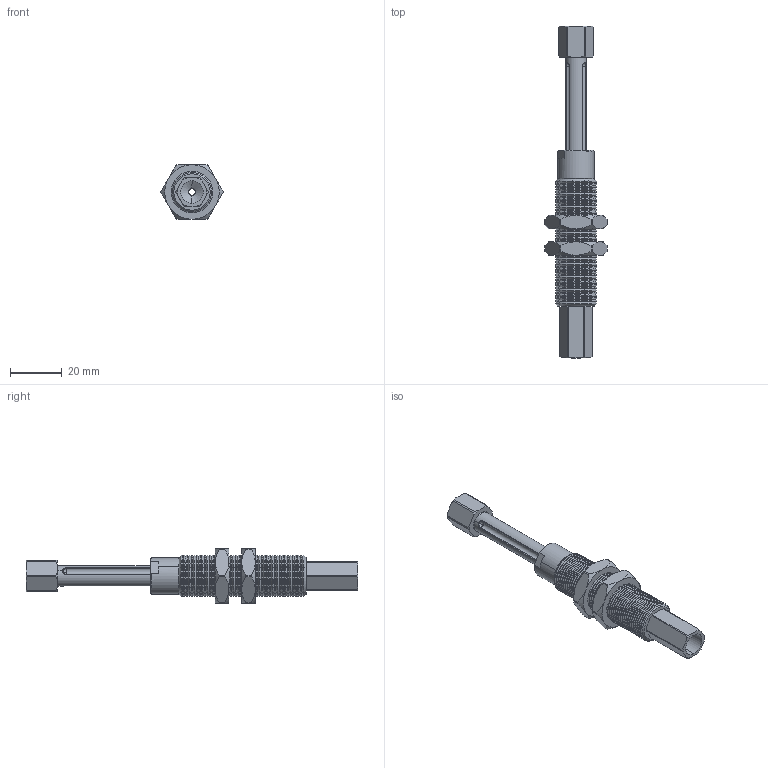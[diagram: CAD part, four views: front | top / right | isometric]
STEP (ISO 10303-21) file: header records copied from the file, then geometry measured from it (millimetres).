
FILE_DESCRIPTION (( 'STEP AP214' ), '1' );
FILE_NAME ('VFNT1636-G18.STEP', '2019-11-18T05:32:16', ( '微软用户' ), ( '微软中国' ), 'SwSTEP 2.0', 'SolidWorks 2016', '' );
FILE_SCHEMA (( 'AUTOMOTIVE_DESIGN' ));
Length unit declared in the file: millimetre
Products named in the file (1): VFNT1636-G18
Bounding box: 24 x 128 x 21 mm (x, y, z)
Volume: 15635 mm3; surface area: 14671.2 mm2
Topology: 6 solids, 6 shells, 628 faces, 1347 edges, 742 vertices
Faces by surface type: cone 344, cylinder 207, plane 57, sphere 12, bspline 6, torus 2
Entity records: 26636 total; most frequent: CARTESIAN_POINT 6028, DIRECTION 3075, ORIENTED_EDGE 2694, EDGE_CURVE 1347, AXIS2_PLACEMENT_3D 1253, VERTEX_POINT 742, EDGE_LOOP 657, UNCERTAINTY_MEASURE_WITH_UNIT 636
